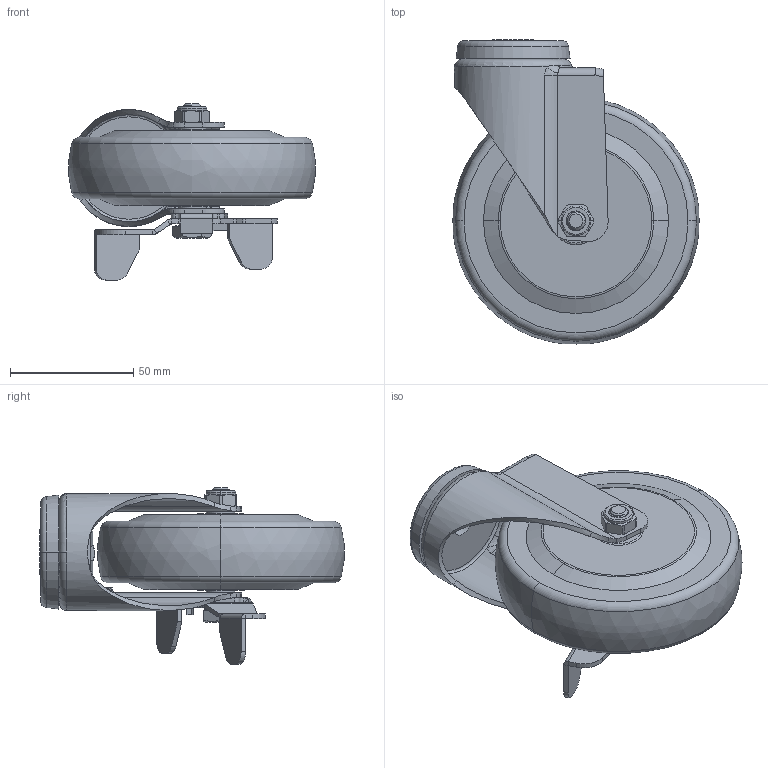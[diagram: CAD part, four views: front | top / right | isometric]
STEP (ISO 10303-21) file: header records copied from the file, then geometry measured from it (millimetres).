
FILE_DESCRIPTION((''),'2;1');
FILE_NAME('36184C-364-64_ASM','2020-01-05T',('L'),(''),'PRO/ENGINEER BY PARAMETRIC TECHNOLOGY CORPORATION, 2010280','PRO/ENGINEER BY PARAMETRIC TECHNOLOGY CORPORATION, 2010280','');
FILE_SCHEMA(('CONFIG_CONTROL_DESIGN'));
Length unit declared in the file: millimetre
Products named in the file (7): 36184C; 364-964; 302-33; 300-34; 304-15; 300-14; 36184C-364-64_ASM
Assembly tree (6 placements, depth 2):
  36184C-364-64_ASM
    36184C
    364-964
    302-33
    300-34
    304-15
    300-14
Bounding box: 99.72 x 123.16 x 71.4 mm (x, y, z)
Volume: 245752.7 mm3; surface area: 53225.4 mm2
Topology: 7 solids, 7 shells, 352 faces, 826 edges, 502 vertices
Faces by surface type: plane 131, cylinder 115, bspline 46, torus 34, cone 26
Entity records: 15565 total; most frequent: CARTESIAN_POINT 7568, ORIENTED_EDGE 1652, DIRECTION 1592, EDGE_CURVE 826, AXIS2_PLACEMENT_3D 603, VERTEX_POINT 502, VECTOR 386, LINE 386
